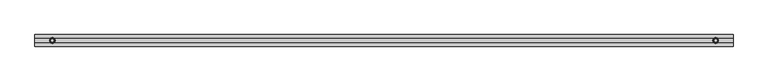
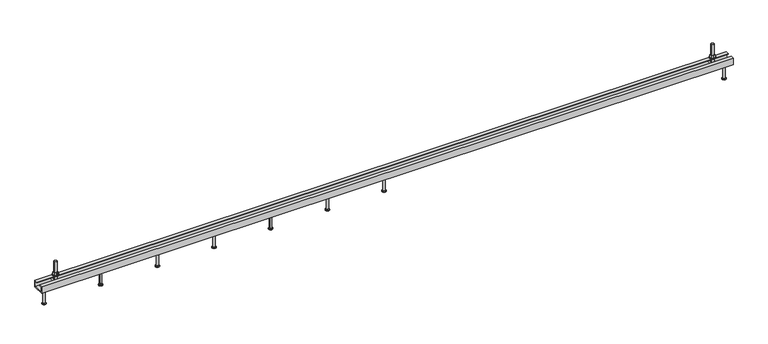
"""IFC4 building model written with IfcOpenShell, lengths in millimetres: fastener geometry, JTA-K JORDAHL® AnchorChannels : JTA-K L=3000 mm."""

from ifc_helpers import new_model, si_unit, point, frame, frame_2d, origin, place, context, project, spatial, polyline, circle_curve, trimmed, segment, composite_curve, outline, extrude, source, transform, mapped, element, save
from ifc_brep_helpers import plane_surface, cylinder_surface, revolved_surface, advanced_brep


def fastener_d4986e7a(model_context):
    return source(origin(), model_context, "Body", "SolidModel", [
        advanced_brep(
        [(1500.0, 0.0, -30.0), (1486.5, 0.0, -30.0), (1513.5, 0.0, -30.0), (1491.5, 0.0, -100.0), (1500.0, 0.0, -100.0), (1508.5, 0.0, -100.0), (1491.5, 0.0, -98.0), (1508.5, 0.0, -98.0), (1495.5, 0.0, -95.6905989), (1504.5, 0.0, -95.6905989), (1495.5, 0.0, -32.5), (1504.5, 0.0, -32.5)],
        [
            (0, 1),
            (1, 2, circle_curve(frame((1500.0, 0.0, -30.0), z_axis=(0.0, 0.0, 1.0), x_axis=(1.0, 0.0, 0.0)), 13.5)),
            (2, 0),
            (2, 1, circle_curve(frame((1500.0, 0.0, -30.0), z_axis=(0.0, 0.0, 1.0), x_axis=(1.0, 0.0, 0.0)), 13.5)),
            (3, 4),
            (4, 5),
            (5, 3, circle_curve(frame((1500.0, 0.0, -100.0), z_axis=(0.0, 0.0, -1.0), x_axis=(1.0, 0.0, 0.0)), 8.5)),
            (3, 5, circle_curve(frame((1500.0, 0.0, -100.0), z_axis=(0.0, 0.0, -1.0), x_axis=(1.0, 0.0, 0.0)), 8.5)),
            (6, 3),
            (5, 7),
            (7, 6, circle_curve(frame((1500.0, 0.0, -98.0), z_axis=(0.0, 0.0, -1.0), x_axis=(1.0, 0.0, 0.0)), 8.5)),
            (6, 7, circle_curve(frame((1500.0, 0.0, -98.0), z_axis=(0.0, 0.0, -1.0), x_axis=(1.0, 0.0, 0.0)), 8.5)),
            (8, 6),
            (7, 9),
            (9, 8, circle_curve(frame((1500.0, 0.0, -95.6905989), z_axis=(0.0, 0.0, -1.0), x_axis=(1.0, 0.0, 0.0)), 4.5)),
            (8, 9, circle_curve(frame((1500.0, 0.0, -95.6905989), z_axis=(0.0, 0.0, -1.0), x_axis=(1.0, 0.0, 0.0)), 4.5)),
            (10, 8),
            (9, 11),
            (11, 10, circle_curve(frame((1500.0, 0.0, -32.5), z_axis=(0.0, 0.0, -1.0), x_axis=(1.0, 0.0, 0.0)), 4.5)),
            (10, 11, circle_curve(frame((1500.0, 0.0, -32.5), z_axis=(0.0, 0.0, -1.0), x_axis=(1.0, 0.0, 0.0)), 4.5)),
            (1, 10),
            (11, 2),
        ],
        [
            plane_surface(frame((1500.0, 0.0, -30.0), z_axis=(0.0, 0.0, 1.0), x_axis=(1.0, 0.0, 0.0))),
            plane_surface(frame((1500.0, 0.0, -100.0), z_axis=(0.0, 0.0, -1.0), x_axis=(1.0, 0.0, 0.0))),
            cylinder_surface(frame((1500.0, 0.0, 2284.3150031), z_axis=(0.0, 0.0, 1.0), x_axis=(1.0, 0.0, 0.0)), 8.5),
            revolved_surface(polyline([(1508.5, 0.0, -98.0), (1504.5, 0.0, -95.6905989)]), (1500.0, 0.0, 2284.3150031), (0.0, 0.0, 1.0)),
            cylinder_surface(frame((1500.0, 0.0, 2284.3150031), z_axis=(0.0, 0.0, 1.0), x_axis=(1.0, 0.0, 0.0)), 4.5),
            revolved_surface(polyline([(1504.5, 0.0, -32.5), (1513.5, 0.0, -30.0)]), (1500.0, 0.0, 2284.3150031), (0.0, 0.0, 1.0)),
        ],
        [
            (0, [[1, 2, 3]]),
            (0, [[-3, 4, -1]]),
            (1, [[5, 6, 7]]),
            (1, [[-6, -5, 8]]),
            (2, [[9, -7, 10, 11]]),
            (2, [[-10, -8, -9, 12]]),
            (3, [[13, -11, 14, 15]]),
            (3, [[-14, -12, -13, 16]]),
            (4, [[17, -15, 18, 19]]),
            (4, [[-18, -16, -17, 20]]),
            (5, [[21, -19, 22, -2]]),
            (5, [[-22, -20, -21, -4]]),
        ],
    ),
        advanced_brep(
        [(1254.1666667, 0.0, -30.0), (1240.6666667, 0.0, -30.0), (1267.6666667, 0.0, -30.0), (1245.6666667, 0.0, -100.0), (1254.1666667, 0.0, -100.0), (1262.6666667, 0.0, -100.0), (1245.6666667, 0.0, -98.0), (1262.6666667, 0.0, -98.0), (1249.6666667, 0.0, -95.6905989), (1258.6666667, 0.0, -95.6905989), (1249.6666667, 0.0, -32.5), (1258.6666667, 0.0, -32.5)],
        [
            (0, 1),
            (1, 2, circle_curve(frame((1254.1666667, 0.0, -30.0), z_axis=(0.0, 0.0, 1.0), x_axis=(1.0, 0.0, 0.0)), 13.5)),
            (2, 0),
            (2, 1, circle_curve(frame((1254.1666667, 0.0, -30.0), z_axis=(0.0, 0.0, 1.0), x_axis=(1.0, 0.0, 0.0)), 13.5)),
            (3, 4),
            (4, 5),
            (5, 3, circle_curve(frame((1254.1666667, 0.0, -100.0), z_axis=(0.0, 0.0, -1.0), x_axis=(1.0, 0.0, 0.0)), 8.5)),
            (3, 5, circle_curve(frame((1254.1666667, 0.0, -100.0), z_axis=(0.0, 0.0, -1.0), x_axis=(1.0, 0.0, 0.0)), 8.5)),
            (6, 3),
            (5, 7),
            (7, 6, circle_curve(frame((1254.1666667, 0.0, -98.0), z_axis=(0.0, 0.0, -1.0), x_axis=(1.0, 0.0, 0.0)), 8.5)),
            (6, 7, circle_curve(frame((1254.1666667, 0.0, -98.0), z_axis=(0.0, 0.0, -1.0), x_axis=(1.0, 0.0, 0.0)), 8.5)),
            (8, 6),
            (7, 9),
            (9, 8, circle_curve(frame((1254.1666667, 0.0, -95.6905989), z_axis=(0.0, 0.0, -1.0), x_axis=(1.0, 0.0, 0.0)), 4.5)),
            (8, 9, circle_curve(frame((1254.1666667, 0.0, -95.6905989), z_axis=(0.0, 0.0, -1.0), x_axis=(1.0, 0.0, 0.0)), 4.5)),
            (10, 8),
            (9, 11),
            (11, 10, circle_curve(frame((1254.1666667, 0.0, -32.5), z_axis=(0.0, 0.0, -1.0), x_axis=(1.0, 0.0, 0.0)), 4.5)),
            (10, 11, circle_curve(frame((1254.1666667, 0.0, -32.5), z_axis=(0.0, 0.0, -1.0), x_axis=(1.0, 0.0, 0.0)), 4.5)),
            (1, 10),
            (11, 2),
        ],
        [
            plane_surface(frame((1254.1666667, 0.0, -30.0), z_axis=(0.0, 0.0, 1.0), x_axis=(1.0, 0.0, 0.0))),
            plane_surface(frame((1254.1666667, 0.0, -100.0), z_axis=(0.0, 0.0, -1.0), x_axis=(1.0, 0.0, 0.0))),
            cylinder_surface(frame((1254.1666667, 0.0, 2284.3150031), z_axis=(0.0, 0.0, 1.0), x_axis=(1.0, 0.0, 0.0)), 8.5),
            revolved_surface(polyline([(1262.6666667, 0.0, -98.0), (1258.6666667, 0.0, -95.6905989)]), (1254.1666667, 0.0, 2284.3150031), (0.0, 0.0, 1.0)),
            cylinder_surface(frame((1254.1666667, 0.0, 2284.3150031), z_axis=(0.0, 0.0, 1.0), x_axis=(1.0, 0.0, 0.0)), 4.5),
            revolved_surface(polyline([(1258.6666667, 0.0, -32.5), (1267.6666667, 0.0, -30.0)]), (1254.1666667, 0.0, 2284.3150031), (0.0, 0.0, 1.0)),
        ],
        [
            (0, [[1, 2, 3]]),
            (0, [[-3, 4, -1]]),
            (1, [[5, 6, 7]]),
            (1, [[-6, -5, 8]]),
            (2, [[9, -7, 10, 11]]),
            (2, [[-10, -8, -9, 12]]),
            (3, [[13, -11, 14, 15]]),
            (3, [[-14, -12, -13, 16]]),
            (4, [[17, -15, 18, 19]]),
            (4, [[-18, -16, -17, 20]]),
            (5, [[21, -19, 22, -2]]),
            (5, [[-22, -20, -21, -4]]),
        ],
    ),
        advanced_brep(
        [(1008.3333333, 0.0, -30.0), (994.8333333, 0.0, -30.0), (1021.8333333, 0.0, -30.0), (999.8333333, 0.0, -100.0), (1008.3333333, 0.0, -100.0), (1016.8333333, 0.0, -100.0), (999.8333333, 0.0, -98.0), (1016.8333333, 0.0, -98.0), (1003.8333333, 0.0, -95.6905989), (1012.8333333, 0.0, -95.6905989), (1003.8333333, 0.0, -32.5), (1012.8333333, 0.0, -32.5)],
        [
            (0, 1),
            (1, 2, circle_curve(frame((1008.3333333, 0.0, -30.0), z_axis=(0.0, 0.0, 1.0), x_axis=(1.0, 0.0, 0.0)), 13.5)),
            (2, 0),
            (2, 1, circle_curve(frame((1008.3333333, 0.0, -30.0), z_axis=(0.0, 0.0, 1.0), x_axis=(1.0, 0.0, 0.0)), 13.5)),
            (3, 4),
            (4, 5),
            (5, 3, circle_curve(frame((1008.3333333, 0.0, -100.0), z_axis=(0.0, 0.0, -1.0), x_axis=(1.0, 0.0, 0.0)), 8.5)),
            (3, 5, circle_curve(frame((1008.3333333, 0.0, -100.0), z_axis=(0.0, 0.0, -1.0), x_axis=(1.0, 0.0, 0.0)), 8.5)),
            (6, 3),
            (5, 7),
            (7, 6, circle_curve(frame((1008.3333333, 0.0, -98.0), z_axis=(0.0, 0.0, -1.0), x_axis=(1.0, 0.0, 0.0)), 8.5)),
            (6, 7, circle_curve(frame((1008.3333333, 0.0, -98.0), z_axis=(0.0, 0.0, -1.0), x_axis=(1.0, 0.0, 0.0)), 8.5)),
            (8, 6),
            (7, 9),
            (9, 8, circle_curve(frame((1008.3333333, 0.0, -95.6905989), z_axis=(0.0, 0.0, -1.0), x_axis=(1.0, 0.0, 0.0)), 4.5)),
            (8, 9, circle_curve(frame((1008.3333333, 0.0, -95.6905989), z_axis=(0.0, 0.0, -1.0), x_axis=(1.0, 0.0, 0.0)), 4.5)),
            (10, 8),
            (9, 11),
            (11, 10, circle_curve(frame((1008.3333333, 0.0, -32.5), z_axis=(0.0, 0.0, -1.0), x_axis=(1.0, 0.0, 0.0)), 4.5)),
            (10, 11, circle_curve(frame((1008.3333333, 0.0, -32.5), z_axis=(0.0, 0.0, -1.0), x_axis=(1.0, 0.0, 0.0)), 4.5)),
            (1, 10),
            (11, 2),
        ],
        [
            plane_surface(frame((1008.3333333, 0.0, -30.0), z_axis=(0.0, 0.0, 1.0), x_axis=(1.0, 0.0, 0.0))),
            plane_surface(frame((1008.3333333, 0.0, -100.0), z_axis=(0.0, 0.0, -1.0), x_axis=(1.0, 0.0, 0.0))),
            cylinder_surface(frame((1008.3333333, 0.0, 2284.3150031), z_axis=(0.0, 0.0, 1.0), x_axis=(1.0, 0.0, 0.0)), 8.5),
            revolved_surface(polyline([(1016.8333333, 0.0, -98.0), (1012.8333333, 0.0, -95.6905989)]), (1008.3333333, 0.0, 2284.3150031), (0.0, 0.0, 1.0)),
            cylinder_surface(frame((1008.3333333, 0.0, 2284.3150031), z_axis=(0.0, 0.0, 1.0), x_axis=(1.0, 0.0, 0.0)), 4.5),
            revolved_surface(polyline([(1012.8333333, 0.0, -32.5), (1021.8333333, 0.0, -30.0)]), (1008.3333333, 0.0, 2284.3150031), (0.0, 0.0, 1.0)),
        ],
        [
            (0, [[1, 2, 3]]),
            (0, [[-3, 4, -1]]),
            (1, [[5, 6, 7]]),
            (1, [[-6, -5, 8]]),
            (2, [[9, -7, 10, 11]]),
            (2, [[-10, -8, -9, 12]]),
            (3, [[13, -11, 14, 15]]),
            (3, [[-14, -12, -13, 16]]),
            (4, [[17, -15, 18, 19]]),
            (4, [[-18, -16, -17, 20]]),
            (5, [[21, -19, 22, -2]]),
            (5, [[-22, -20, -21, -4]]),
        ],
    ),
        advanced_brep(
        [(762.5, 0.0, -30.0), (749.0, 0.0, -30.0), (776.0, 0.0, -30.0), (754.0, 0.0, -100.0), (762.5, 0.0, -100.0), (771.0, 0.0, -100.0), (754.0, 0.0, -98.0), (771.0, 0.0, -98.0), (758.0, 0.0, -95.6905989), (767.0, 0.0, -95.6905989), (758.0, 0.0, -32.5), (767.0, 0.0, -32.5)],
        [
            (0, 1),
            (1, 2, circle_curve(frame((762.5, 0.0, -30.0), z_axis=(0.0, 0.0, 1.0), x_axis=(1.0, 0.0, 0.0)), 13.5)),
            (2, 0),
            (2, 1, circle_curve(frame((762.5, 0.0, -30.0), z_axis=(0.0, 0.0, 1.0), x_axis=(1.0, 0.0, 0.0)), 13.5)),
            (3, 4),
            (4, 5),
            (5, 3, circle_curve(frame((762.5, 0.0, -100.0), z_axis=(0.0, 0.0, -1.0), x_axis=(1.0, 0.0, 0.0)), 8.5)),
            (3, 5, circle_curve(frame((762.5, 0.0, -100.0), z_axis=(0.0, 0.0, -1.0), x_axis=(1.0, 0.0, 0.0)), 8.5)),
            (6, 3),
            (5, 7),
            (7, 6, circle_curve(frame((762.5, 0.0, -98.0), z_axis=(0.0, 0.0, -1.0), x_axis=(1.0, 0.0, 0.0)), 8.5)),
            (6, 7, circle_curve(frame((762.5, 0.0, -98.0), z_axis=(0.0, 0.0, -1.0), x_axis=(1.0, 0.0, 0.0)), 8.5)),
            (8, 6),
            (7, 9),
            (9, 8, circle_curve(frame((762.5, 0.0, -95.6905989), z_axis=(0.0, 0.0, -1.0), x_axis=(1.0, 0.0, 0.0)), 4.5)),
            (8, 9, circle_curve(frame((762.5, 0.0, -95.6905989), z_axis=(0.0, 0.0, -1.0), x_axis=(1.0, 0.0, 0.0)), 4.5)),
            (10, 8),
            (9, 11),
            (11, 10, circle_curve(frame((762.5, 0.0, -32.5), z_axis=(0.0, 0.0, -1.0), x_axis=(1.0, 0.0, 0.0)), 4.5)),
            (10, 11, circle_curve(frame((762.5, 0.0, -32.5), z_axis=(0.0, 0.0, -1.0), x_axis=(1.0, 0.0, 0.0)), 4.5)),
            (1, 10),
            (11, 2),
        ],
        [
            plane_surface(frame((762.5, 0.0, -30.0), z_axis=(0.0, 0.0, 1.0), x_axis=(1.0, 0.0, 0.0))),
            plane_surface(frame((762.5, 0.0, -100.0), z_axis=(0.0, 0.0, -1.0), x_axis=(1.0, 0.0, 0.0))),
            cylinder_surface(frame((762.5, 0.0, 2284.3150031), z_axis=(0.0, 0.0, 1.0), x_axis=(1.0, 0.0, 0.0)), 8.5),
            revolved_surface(polyline([(771.0, 0.0, -98.0), (767.0, 0.0, -95.6905989)]), (762.5, 0.0, 2284.3150031), (0.0, 0.0, 1.0)),
            cylinder_surface(frame((762.5, 0.0, 2284.3150031), z_axis=(0.0, 0.0, 1.0), x_axis=(1.0, 0.0, 0.0)), 4.5),
            revolved_surface(polyline([(767.0, 0.0, -32.5), (776.0, 0.0, -30.0)]), (762.5, 0.0, 2284.3150031), (0.0, 0.0, 1.0)),
        ],
        [
            (0, [[1, 2, 3]]),
            (0, [[-3, 4, -1]]),
            (1, [[5, 6, 7]]),
            (1, [[-6, -5, 8]]),
            (2, [[9, -7, 10, 11]]),
            (2, [[-10, -8, -9, 12]]),
            (3, [[13, -11, 14, 15]]),
            (3, [[-14, -12, -13, 16]]),
            (4, [[17, -15, 18, 19]]),
            (4, [[-18, -16, -17, 20]]),
            (5, [[21, -19, 22, -2]]),
            (5, [[-22, -20, -21, -4]]),
        ],
    ),
        advanced_brep(
        [(516.6666667, 0.0, -30.0), (503.1666667, 0.0, -30.0), (530.1666667, 0.0, -30.0), (508.1666667, 0.0, -100.0), (516.6666667, 0.0, -100.0), (525.1666667, 0.0, -100.0), (508.1666667, 0.0, -98.0), (525.1666667, 0.0, -98.0), (512.1666667, 0.0, -95.6905989), (521.1666667, 0.0, -95.6905989), (512.1666667, 0.0, -32.5), (521.1666667, 0.0, -32.5)],
        [
            (0, 1),
            (1, 2, circle_curve(frame((516.6666667, 0.0, -30.0), z_axis=(0.0, 0.0, 1.0), x_axis=(1.0, 0.0, 0.0)), 13.5)),
            (2, 0),
            (2, 1, circle_curve(frame((516.6666667, 0.0, -30.0), z_axis=(0.0, 0.0, 1.0), x_axis=(1.0, 0.0, 0.0)), 13.5)),
            (3, 4),
            (4, 5),
            (5, 3, circle_curve(frame((516.6666667, 0.0, -100.0), z_axis=(0.0, 0.0, -1.0), x_axis=(1.0, 0.0, 0.0)), 8.5)),
            (3, 5, circle_curve(frame((516.6666667, 0.0, -100.0), z_axis=(0.0, 0.0, -1.0), x_axis=(1.0, 0.0, 0.0)), 8.5)),
            (6, 3),
            (5, 7),
            (7, 6, circle_curve(frame((516.6666667, 0.0, -98.0), z_axis=(0.0, 0.0, -1.0), x_axis=(1.0, 0.0, 0.0)), 8.5)),
            (6, 7, circle_curve(frame((516.6666667, 0.0, -98.0), z_axis=(0.0, 0.0, -1.0), x_axis=(1.0, 0.0, 0.0)), 8.5)),
            (8, 6),
            (7, 9),
            (9, 8, circle_curve(frame((516.6666667, 0.0, -95.6905989), z_axis=(0.0, 0.0, -1.0), x_axis=(1.0, 0.0, 0.0)), 4.5)),
            (8, 9, circle_curve(frame((516.6666667, 0.0, -95.6905989), z_axis=(0.0, 0.0, -1.0), x_axis=(1.0, 0.0, 0.0)), 4.5)),
            (10, 8),
            (9, 11),
            (11, 10, circle_curve(frame((516.6666667, 0.0, -32.5), z_axis=(0.0, 0.0, -1.0), x_axis=(1.0, 0.0, 0.0)), 4.5)),
            (10, 11, circle_curve(frame((516.6666667, 0.0, -32.5), z_axis=(0.0, 0.0, -1.0), x_axis=(1.0, 0.0, 0.0)), 4.5)),
            (1, 10),
            (11, 2),
        ],
        [
            plane_surface(frame((516.6666667, 0.0, -30.0), z_axis=(0.0, 0.0, 1.0), x_axis=(1.0, 0.0, 0.0))),
            plane_surface(frame((516.6666667, 0.0, -100.0), z_axis=(0.0, 0.0, -1.0), x_axis=(1.0, 0.0, 0.0))),
            cylinder_surface(frame((516.6666667, 0.0, 2284.3150031), z_axis=(0.0, 0.0, 1.0), x_axis=(1.0, 0.0, 0.0)), 8.5),
            revolved_surface(polyline([(525.1666667, 0.0, -98.0), (521.1666667, 0.0, -95.6905989)]), (516.6666667, 0.0, 2284.3150031), (0.0, 0.0, 1.0)),
            cylinder_surface(frame((516.6666667, 0.0, 2284.3150031), z_axis=(0.0, 0.0, 1.0), x_axis=(1.0, 0.0, 0.0)), 4.5),
            revolved_surface(polyline([(521.1666667, 0.0, -32.5), (530.1666667, 0.0, -30.0)]), (516.6666667, 0.0, 2284.3150031), (0.0, 0.0, 1.0)),
        ],
        [
            (0, [[1, 2, 3]]),
            (0, [[-3, 4, -1]]),
            (1, [[5, 6, 7]]),
            (1, [[-6, -5, 8]]),
            (2, [[9, -7, 10, 11]]),
            (2, [[-10, -8, -9, 12]]),
            (3, [[13, -11, 14, 15]]),
            (3, [[-14, -12, -13, 16]]),
            (4, [[17, -15, 18, 19]]),
            (4, [[-18, -16, -17, 20]]),
            (5, [[21, -19, 22, -2]]),
            (5, [[-22, -20, -21, -4]]),
        ],
    ),
        advanced_brep(
        [(270.8333333, 0.0, -30.0), (257.3333333, 0.0, -30.0), (284.3333333, 0.0, -30.0), (262.3333333, 0.0, -100.0), (270.8333333, 0.0, -100.0), (279.3333333, 0.0, -100.0), (262.3333333, 0.0, -98.0), (279.3333333, 0.0, -98.0), (266.3333333, 0.0, -95.6905989), (275.3333333, 0.0, -95.6905989), (266.3333333, 0.0, -32.5), (275.3333333, 0.0, -32.5)],
        [
            (0, 1),
            (1, 2, circle_curve(frame((270.8333333, 0.0, -30.0), z_axis=(0.0, 0.0, 1.0), x_axis=(1.0, 0.0, 0.0)), 13.5)),
            (2, 0),
            (2, 1, circle_curve(frame((270.8333333, 0.0, -30.0), z_axis=(0.0, 0.0, 1.0), x_axis=(1.0, 0.0, 0.0)), 13.5)),
            (3, 4),
            (4, 5),
            (5, 3, circle_curve(frame((270.8333333, 0.0, -100.0), z_axis=(0.0, 0.0, -1.0), x_axis=(1.0, 0.0, 0.0)), 8.5)),
            (3, 5, circle_curve(frame((270.8333333, 0.0, -100.0), z_axis=(0.0, 0.0, -1.0), x_axis=(1.0, 0.0, 0.0)), 8.5)),
            (6, 3),
            (5, 7),
            (7, 6, circle_curve(frame((270.8333333, 0.0, -98.0), z_axis=(0.0, 0.0, -1.0), x_axis=(1.0, 0.0, 0.0)), 8.5)),
            (6, 7, circle_curve(frame((270.8333333, 0.0, -98.0), z_axis=(0.0, 0.0, -1.0), x_axis=(1.0, 0.0, 0.0)), 8.5)),
            (8, 6),
            (7, 9),
            (9, 8, circle_curve(frame((270.8333333, 0.0, -95.6905989), z_axis=(0.0, 0.0, -1.0), x_axis=(1.0, 0.0, 0.0)), 4.5)),
            (8, 9, circle_curve(frame((270.8333333, 0.0, -95.6905989), z_axis=(0.0, 0.0, -1.0), x_axis=(1.0, 0.0, 0.0)), 4.5)),
            (10, 8),
            (9, 11),
            (11, 10, circle_curve(frame((270.8333333, 0.0, -32.5), z_axis=(0.0, 0.0, -1.0), x_axis=(1.0, 0.0, 0.0)), 4.5)),
            (10, 11, circle_curve(frame((270.8333333, 0.0, -32.5), z_axis=(0.0, 0.0, -1.0), x_axis=(1.0, 0.0, 0.0)), 4.5)),
            (1, 10),
            (11, 2),
        ],
        [
            plane_surface(frame((270.8333333, 0.0, -30.0), z_axis=(0.0, 0.0, 1.0), x_axis=(1.0, 0.0, 0.0))),
            plane_surface(frame((270.8333333, 0.0, -100.0), z_axis=(0.0, 0.0, -1.0), x_axis=(1.0, 0.0, 0.0))),
            cylinder_surface(frame((270.8333333, 0.0, 2284.3150031), z_axis=(0.0, 0.0, 1.0), x_axis=(1.0, 0.0, 0.0)), 8.5),
            revolved_surface(polyline([(279.3333333, 0.0, -98.0), (275.3333333, 0.0, -95.6905989)]), (270.8333333, 0.0, 2284.3150031), (0.0, 0.0, 1.0)),
            cylinder_surface(frame((270.8333333, 0.0, 2284.3150031), z_axis=(0.0, 0.0, 1.0), x_axis=(1.0, 0.0, 0.0)), 4.5),
            revolved_surface(polyline([(275.3333333, 0.0, -32.5), (284.3333333, 0.0, -30.0)]), (270.8333333, 0.0, 2284.3150031), (0.0, 0.0, 1.0)),
        ],
        [
            (0, [[1, 2, 3]]),
            (0, [[-3, 4, -1]]),
            (1, [[5, 6, 7]]),
            (1, [[-6, -5, 8]]),
            (2, [[9, -7, 10, 11]]),
            (2, [[-10, -8, -9, 12]]),
            (3, [[13, -11, 14, 15]]),
            (3, [[-14, -12, -13, 16]]),
            (4, [[17, -15, 18, 19]]),
            (4, [[-18, -16, -17, 20]]),
            (5, [[21, -19, 22, -2]]),
            (5, [[-22, -20, -21, -4]]),
        ],
    ),
        extrude(outline(polyline([(2925.0, -10.3923048), (2916.0, -5.1961524), (2916.0, 5.1961524), (2925.0, 10.3923048), (2934.0, 5.1961524), (2934.0, -5.1961524), (2925.0, -10.3923048)]), holes=[composite_curve([segment(trimmed(circle_curve(frame_2d((2925.0, 0.0)), 6.0), [point((2919.0, 0.0))], [point((2931.0, 0.0))], True, "CARTESIAN"), True, "CONTINUOUS"), segment(trimmed(circle_curve(frame_2d((2925.0, 0.0)), 6.0), [point((2931.0, 0.0))], [point((2919.0, 0.0))], True, "CARTESIAN"), True, "CONTINUOUS")], self_intersect=False)]), frame((0.0, 0.0, 17.5), z_axis=(0.0, 0.0, 1.0), x_axis=(1.0, 0.0, 0.0)), (0.0, 0.0, 1.0), 10.8),
        extrude(outline(composite_curve([segment(trimmed(circle_curve(frame_2d((2925.0, 0.0)), 12.0), [point((2913.0, 0.0))], [point((2937.0, 0.0))], False, "CARTESIAN"), True, "CONTINUOUS"), segment(trimmed(circle_curve(frame_2d((2925.0, 0.0)), 12.0), [point((2937.0, 0.0))], [point((2913.0, 0.0))], False, "CARTESIAN"), True, "CONTINUOUS")], self_intersect=False), holes=[composite_curve([segment(trimmed(circle_curve(frame_2d((2925.0, 0.0)), 6.5), [point((2918.5, 0.0))], [point((2931.5, 0.0))], True, "CARTESIAN"), True, "CONTINUOUS"), segment(trimmed(circle_curve(frame_2d((2925.0, 0.0)), 6.5), [point((2931.5, 0.0))], [point((2918.5, 0.0))], True, "CARTESIAN"), True, "CONTINUOUS")], self_intersect=False)]), frame((0.0, 0.0, 15.0), z_axis=(0.0, 0.0, 1.0), x_axis=(1.0, 0.0, 0.0)), (0.0, 0.0, 1.0), 2.5),
        extrude(outline(polyline([(75.0, -10.3923048), (66.0, -5.1961524), (66.0, 5.1961524), (75.0, 10.3923048), (84.0, 5.1961524), (84.0, -5.1961524), (75.0, -10.3923048)]), holes=[composite_curve([segment(trimmed(circle_curve(frame_2d((75.0, 0.0)), 6.0), [point((69.0, 0.0))], [point((81.0, 0.0))], True, "CARTESIAN"), True, "CONTINUOUS"), segment(trimmed(circle_curve(frame_2d((75.0, 0.0)), 6.0), [point((81.0, 0.0))], [point((69.0, 0.0))], True, "CARTESIAN"), True, "CONTINUOUS")], self_intersect=False)]), frame((0.0, 0.0, 17.5), z_axis=(0.0, 0.0, 1.0), x_axis=(1.0, 0.0, 0.0)), (0.0, 0.0, 1.0), 10.8),
        extrude(outline(composite_curve([segment(trimmed(circle_curve(frame_2d((75.0, 0.0)), 12.0), [point((63.0, 0.0))], [point((87.0, 0.0))], False, "CARTESIAN"), True, "CONTINUOUS"), segment(trimmed(circle_curve(frame_2d((75.0, 0.0)), 12.0), [point((87.0, 0.0))], [point((63.0, 0.0))], False, "CARTESIAN"), True, "CONTINUOUS")], self_intersect=False), holes=[composite_curve([segment(trimmed(circle_curve(frame_2d((75.0, 0.0)), 6.5), [point((68.5, 0.0))], [point((81.5, 0.0))], True, "CARTESIAN"), True, "CONTINUOUS"), segment(trimmed(circle_curve(frame_2d((75.0, 0.0)), 6.5), [point((81.5, 0.0))], [point((68.5, 0.0))], True, "CARTESIAN"), True, "CONTINUOUS")], self_intersect=False)]), frame((0.0, 0.0, 15.0), z_axis=(0.0, 0.0, 1.0), x_axis=(1.0, 0.0, 0.0)), (0.0, 0.0, 1.0), 2.5),
        advanced_brep(
        [(2933.5, -20.7, -3.0), (2933.5, -20.7, -13.0), (2933.5, 20.7, -13.0), (2933.5, 20.7, -3.0), (2916.5, -20.7, -3.0), (2916.5, 20.7, -3.0), (2916.5, 20.7, -13.0), (2916.5, -20.7, -13.0), (2931.0, 0.0, -3.0), (2919.0, 0.0, -3.0), (2919.0, 0.0, 77.0), (2931.0, 0.0, 77.0)],
        [
            (0, 1),
            (1, 2),
            (2, 3),
            (3, 0),
            (4, 5),
            (5, 6),
            (6, 7),
            (7, 4),
            (3, 5),
            (4, 0),
            (8, 9, circle_curve(frame((2925.0, 0.0, -3.0), z_axis=(0.0, 0.0, -1.0), x_axis=(1.0, 0.0, 0.0)), 6.0)),
            (9, 8, circle_curve(frame((2925.0, 0.0, -3.0), z_axis=(0.0, 0.0, -1.0), x_axis=(1.0, 0.0, 0.0)), 6.0)),
            (2, 6),
            (1, 7),
            (10, 11, circle_curve(frame((2925.0, 0.0, 77.0), z_axis=(0.0, 0.0, 1.0), x_axis=(1.0, 0.0, 0.0)), 6.0)),
            (11, 10, circle_curve(frame((2925.0, 0.0, 77.0), z_axis=(0.0, 0.0, 1.0), x_axis=(1.0, 0.0, 0.0)), 6.0)),
            (11, 8),
            (9, 10),
        ],
        [
            plane_surface(frame((2933.5, 20.7, -3.0), z_axis=(1.0, 0.0, 0.0), x_axis=(0.0, 1.0, 0.0))),
            plane_surface(frame((2916.5, 20.7, -3.0), z_axis=(-1.0, 0.0, 0.0), x_axis=(0.0, -1.0, 0.0))),
            plane_surface(frame((2933.5, -20.7, -3.0), z_axis=(0.0, 0.0, 1.0), x_axis=(-1.0, 0.0, 0.0))),
            plane_surface(frame((2933.5, 20.7, -3.0), z_axis=(0.0, 1.0, 0.0), x_axis=(-1.0, 0.0, 0.0))),
            plane_surface(frame((2933.5, 20.7, -13.0), z_axis=(0.0, 0.0, -1.0), x_axis=(-1.0, 0.0, 0.0))),
            plane_surface(frame((2933.5, -20.7, -13.0), z_axis=(0.0, -1.0, 0.0), x_axis=(-1.0, 0.0, 0.0))),
            plane_surface(frame((2931.0, 0.0, 77.0), z_axis=(0.0, 0.0, 1.0), x_axis=(0.0, -1.0, 0.0))),
            cylinder_surface(frame((2925.0, 0.0, -3.0), z_axis=(0.0, 0.0, 1.0), x_axis=(1.0, 0.0, 0.0)), 6.0),
        ],
        [
            (0, [[1, 2, 3, 4]]),
            (1, [[5, 6, 7, 8]]),
            (2, [[9, -5, 10, -4], [11, 12]]),
            (3, [[13, -6, -9, -3]]),
            (4, [[14, -7, -13, -2]]),
            (5, [[-10, -8, -14, -1]]),
            (6, [[15, 16]]),
            (7, [[17, -12, 18, -16]]),
            (7, [[-18, -11, -17, -15]]),
        ],
    ),
        advanced_brep(
        [(83.5, -20.7, -3.0), (83.5, -20.7, -13.0), (83.5, 20.7, -13.0), (83.5, 20.7, -3.0), (66.5, -20.7, -3.0), (66.5, 20.7, -3.0), (66.5, 20.7, -13.0), (66.5, -20.7, -13.0), (81.0, 0.0, -3.0), (69.0, 0.0, -3.0), (69.0, 0.0, 77.0), (81.0, 0.0, 77.0)],
        [
            (0, 1),
            (1, 2),
            (2, 3),
            (3, 0),
            (4, 5),
            (5, 6),
            (6, 7),
            (7, 4),
            (3, 5),
            (4, 0),
            (8, 9, circle_curve(frame((75.0, 0.0, -3.0), z_axis=(0.0, 0.0, -1.0), x_axis=(1.0, 0.0, 0.0)), 6.0)),
            (9, 8, circle_curve(frame((75.0, 0.0, -3.0), z_axis=(0.0, 0.0, -1.0), x_axis=(1.0, 0.0, 0.0)), 6.0)),
            (2, 6),
            (1, 7),
            (10, 11, circle_curve(frame((75.0, 0.0, 77.0), z_axis=(0.0, 0.0, 1.0), x_axis=(1.0, 0.0, 0.0)), 6.0)),
            (11, 10, circle_curve(frame((75.0, 0.0, 77.0), z_axis=(0.0, 0.0, 1.0), x_axis=(1.0, 0.0, 0.0)), 6.0)),
            (11, 8),
            (9, 10),
        ],
        [
            plane_surface(frame((83.5, 20.7, -3.0), z_axis=(1.0, 0.0, 0.0), x_axis=(0.0, 1.0, 0.0))),
            plane_surface(frame((66.5, 20.7, -3.0), z_axis=(-1.0, 0.0, 0.0), x_axis=(0.0, -1.0, 0.0))),
            plane_surface(frame((83.5, -20.7, -3.0), z_axis=(0.0, 0.0, 1.0), x_axis=(-1.0, 0.0, 0.0))),
            plane_surface(frame((83.5, 20.7, -3.0), z_axis=(0.0, 1.0, 0.0), x_axis=(-1.0, 0.0, 0.0))),
            plane_surface(frame((83.5, 20.7, -13.0), z_axis=(0.0, 0.0, -1.0), x_axis=(-1.0, 0.0, 0.0))),
            plane_surface(frame((83.5, -20.7, -13.0), z_axis=(0.0, -1.0, 0.0), x_axis=(-1.0, 0.0, 0.0))),
            plane_surface(frame((81.0, 0.0, 77.0), z_axis=(0.0, 0.0, 1.0), x_axis=(0.0, -1.0, 0.0))),
            cylinder_surface(frame((75.0, 0.0, -3.0), z_axis=(0.0, 0.0, 1.0), x_axis=(1.0, 0.0, 0.0)), 6.0),
        ],
        [
            (0, [[1, 2, 3, 4]]),
            (1, [[5, 6, 7, 8]]),
            (2, [[9, -5, 10, -4], [11, 12]]),
            (3, [[13, -6, -9, -3]]),
            (4, [[14, -7, -13, -2]]),
            (5, [[-10, -8, -14, -1]]),
            (6, [[15, 16]]),
            (7, [[17, -12, 18, -16]]),
            (7, [[-18, -11, -17, -15]]),
        ],
    ),
        advanced_brep(
        [(2975.0, 0.0, -30.0), (2961.5, 0.0, -30.0), (2988.5, 0.0, -30.0), (2966.5, 0.0, -100.0), (2975.0, 0.0, -100.0), (2983.5, 0.0, -100.0), (2966.5, 0.0, -98.0), (2983.5, 0.0, -98.0), (2970.5, 0.0, -95.6905989), (2979.5, 0.0, -95.6905989), (2970.5, 0.0, -32.5), (2979.5, 0.0, -32.5)],
        [
            (0, 1),
            (1, 2, circle_curve(frame((2975.0, 0.0, -30.0), z_axis=(0.0, 0.0, 1.0), x_axis=(1.0, 0.0, 0.0)), 13.5)),
            (2, 0),
            (2, 1, circle_curve(frame((2975.0, 0.0, -30.0), z_axis=(0.0, 0.0, 1.0), x_axis=(1.0, 0.0, 0.0)), 13.5)),
            (3, 4),
            (4, 5),
            (5, 3, circle_curve(frame((2975.0, 0.0, -100.0), z_axis=(0.0, 0.0, -1.0), x_axis=(1.0, 0.0, 0.0)), 8.5)),
            (3, 5, circle_curve(frame((2975.0, 0.0, -100.0), z_axis=(0.0, 0.0, -1.0), x_axis=(1.0, 0.0, 0.0)), 8.5)),
            (6, 3),
            (5, 7),
            (7, 6, circle_curve(frame((2975.0, 0.0, -98.0), z_axis=(0.0, 0.0, -1.0), x_axis=(1.0, 0.0, 0.0)), 8.5)),
            (6, 7, circle_curve(frame((2975.0, 0.0, -98.0), z_axis=(0.0, 0.0, -1.0), x_axis=(1.0, 0.0, 0.0)), 8.5)),
            (8, 6),
            (7, 9),
            (9, 8, circle_curve(frame((2975.0, 0.0, -95.6905989), z_axis=(0.0, 0.0, -1.0), x_axis=(1.0, 0.0, 0.0)), 4.5)),
            (8, 9, circle_curve(frame((2975.0, 0.0, -95.6905989), z_axis=(0.0, 0.0, -1.0), x_axis=(1.0, 0.0, 0.0)), 4.5)),
            (10, 8),
            (9, 11),
            (11, 10, circle_curve(frame((2975.0, 0.0, -32.5), z_axis=(0.0, 0.0, -1.0), x_axis=(1.0, 0.0, 0.0)), 4.5)),
            (10, 11, circle_curve(frame((2975.0, 0.0, -32.5), z_axis=(0.0, 0.0, -1.0), x_axis=(1.0, 0.0, 0.0)), 4.5)),
            (1, 10),
            (11, 2),
        ],
        [
            plane_surface(frame((2975.0, 0.0, -30.0), z_axis=(0.0, 0.0, 1.0), x_axis=(1.0, 0.0, 0.0))),
            plane_surface(frame((2975.0, 0.0, -100.0), z_axis=(0.0, 0.0, -1.0), x_axis=(1.0, 0.0, 0.0))),
            cylinder_surface(frame((2975.0, 0.0, 2284.3150031), z_axis=(0.0, 0.0, 1.0), x_axis=(1.0, 0.0, 0.0)), 8.5),
            revolved_surface(polyline([(2983.5, 0.0, -98.0), (2979.5, 0.0, -95.6905989)]), (2975.0, 0.0, 2284.3150031), (0.0, 0.0, 1.0)),
            cylinder_surface(frame((2975.0, 0.0, 2284.3150031), z_axis=(0.0, 0.0, 1.0), x_axis=(1.0, 0.0, 0.0)), 4.5),
            revolved_surface(polyline([(2979.5, 0.0, -32.5), (2988.5, 0.0, -30.0)]), (2975.0, 0.0, 2284.3150031), (0.0, 0.0, 1.0)),
        ],
        [
            (0, [[1, 2, 3]]),
            (0, [[-3, 4, -1]]),
            (1, [[5, 6, 7]]),
            (1, [[-6, -5, 8]]),
            (2, [[9, -7, 10, 11]]),
            (2, [[-10, -8, -9, 12]]),
            (3, [[13, -11, 14, 15]]),
            (3, [[-14, -12, -13, 16]]),
            (4, [[17, -15, 18, 19]]),
            (4, [[-18, -16, -17, 20]]),
            (5, [[21, -19, 22, -2]]),
            (5, [[-22, -20, -21, -4]]),
        ],
    ),
        advanced_brep(
        [(25.0, 0.0, -30.0), (11.5, 0.0, -30.0), (38.5, 0.0, -30.0), (16.5, 0.0, -100.0), (25.0, 0.0, -100.0), (33.5, 0.0, -100.0), (16.5, 0.0, -98.0), (33.5, 0.0, -98.0), (20.5, 0.0, -95.6905989), (29.5, 0.0, -95.6905989), (20.5, 0.0, -32.5), (29.5, 0.0, -32.5)],
        [
            (0, 1),
            (1, 2, circle_curve(frame((25.0, 0.0, -30.0), z_axis=(0.0, 0.0, 1.0), x_axis=(1.0, 0.0, 0.0)), 13.5)),
            (2, 0),
            (2, 1, circle_curve(frame((25.0, 0.0, -30.0), z_axis=(0.0, 0.0, 1.0), x_axis=(1.0, 0.0, 0.0)), 13.5)),
            (3, 4),
            (4, 5),
            (5, 3, circle_curve(frame((25.0, 0.0, -100.0), z_axis=(0.0, 0.0, -1.0), x_axis=(1.0, 0.0, 0.0)), 8.5)),
            (3, 5, circle_curve(frame((25.0, 0.0, -100.0), z_axis=(0.0, 0.0, -1.0), x_axis=(1.0, 0.0, 0.0)), 8.5)),
            (6, 3),
            (5, 7),
            (7, 6, circle_curve(frame((25.0, 0.0, -98.0), z_axis=(0.0, 0.0, -1.0), x_axis=(1.0, 0.0, 0.0)), 8.5)),
            (6, 7, circle_curve(frame((25.0, 0.0, -98.0), z_axis=(0.0, 0.0, -1.0), x_axis=(1.0, 0.0, 0.0)), 8.5)),
            (8, 6),
            (7, 9),
            (9, 8, circle_curve(frame((25.0, 0.0, -95.6905989), z_axis=(0.0, 0.0, -1.0), x_axis=(1.0, 0.0, 0.0)), 4.5)),
            (8, 9, circle_curve(frame((25.0, 0.0, -95.6905989), z_axis=(0.0, 0.0, -1.0), x_axis=(1.0, 0.0, 0.0)), 4.5)),
            (10, 8),
            (9, 11),
            (11, 10, circle_curve(frame((25.0, 0.0, -32.5), z_axis=(0.0, 0.0, -1.0), x_axis=(1.0, 0.0, 0.0)), 4.5)),
            (10, 11, circle_curve(frame((25.0, 0.0, -32.5), z_axis=(0.0, 0.0, -1.0), x_axis=(1.0, 0.0, 0.0)), 4.5)),
            (1, 10),
            (11, 2),
        ],
        [
            plane_surface(frame((25.0, 0.0, -30.0), z_axis=(0.0, 0.0, 1.0), x_axis=(1.0, 0.0, 0.0))),
            plane_surface(frame((25.0, 0.0, -100.0), z_axis=(0.0, 0.0, -1.0), x_axis=(1.0, 0.0, 0.0))),
            cylinder_surface(frame((25.0, 0.0, 2284.3150031), z_axis=(0.0, 0.0, 1.0), x_axis=(1.0, 0.0, 0.0)), 8.5),
            revolved_surface(polyline([(33.5, 0.0, -98.0), (29.5, 0.0, -95.6905989)]), (25.0, 0.0, 2284.3150031), (0.0, 0.0, 1.0)),
            cylinder_surface(frame((25.0, 0.0, 2284.3150031), z_axis=(0.0, 0.0, 1.0), x_axis=(1.0, 0.0, 0.0)), 4.5),
            revolved_surface(polyline([(29.5, 0.0, -32.5), (38.5, 0.0, -30.0)]), (25.0, 0.0, 2284.3150031), (0.0, 0.0, 1.0)),
        ],
        [
            (0, [[1, 2, 3]]),
            (0, [[-3, 4, -1]]),
            (1, [[5, 6, 7]]),
            (1, [[-6, -5, 8]]),
            (2, [[9, -7, 10, 11]]),
            (2, [[-10, -8, -9, 12]]),
            (3, [[13, -11, 14, 15]]),
            (3, [[-14, -12, -13, 16]]),
            (4, [[17, -15, 18, 19]]),
            (4, [[-18, -16, -17, 20]]),
            (5, [[21, -19, 22, -2]]),
            (5, [[-22, -20, -21, -4]]),
        ],
    ),
        extrude(outline(polyline([(-25.0, 0.0), (-11.0, 0.0), (-11.0, -3.0), (-22.0, -3.0), (-22.0, -27.0), (22.0, -27.0), (22.0, -3.0), (11.0, -3.0), (11.0, 0.0), (25.0, 0.0), (25.0, -30.0), (-25.0, -30.0), (-25.0, 0.0)])), frame((0.0, 0.0, 0.0), z_axis=(1.0, 0.0, 0.0), x_axis=(0.0, 1.0, 0.0)), (0.0, 0.0, 1.0), 3000.0),
    ])


if __name__ == "__main__":
    model = new_model("IFC4")
    model_context = context("Model", 3, world=origin())
    ifc_project = project(units=[si_unit("LENGTHUNIT", "METRE", prefix="MILLI")], contexts=[model_context])
    site = spatial("IfcSite", under=ifc_project)
    building = spatial("IfcBuilding", under=site)
    placement = place(None, origin())
    fastener_shape = fastener_d4986e7a(model_context)
    element("IfcFastener", 1, ObjectType="JTA-K JORDAHL® AnchorChannels : JTA-K L=3000 mm", at=placement, inside=building, context=model_context, shape_type="MappedRepresentation", body=[
        mapped(fastener_shape, transform((0.0, 0.0, 0.0), x_axis=(1.0, 0.0, 0.0), y_axis=(0.0, 1.0, 0.0), z_axis=(0.0, 0.0, 1.0))),
    ])
    save(model, "model.ifc")
